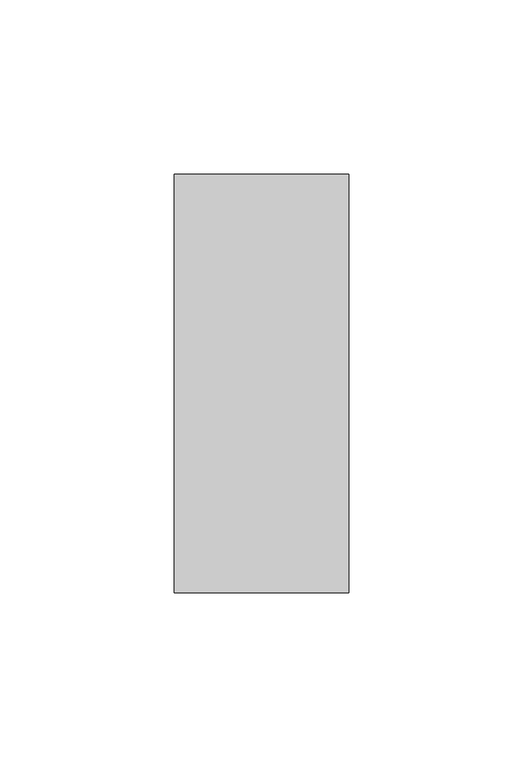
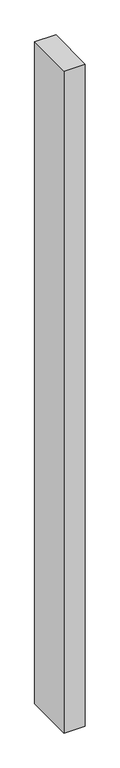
"""IFC4 building model written with IfcOpenShell, lengths in millimetres: member geometry, Прямоугольный импост : 50х120 мм."""

import ifcopenshell
import ifcopenshell.guid

model = None  # the IFC model being written
_history = None  # IfcOwnerHistory: only IFC2X3 demands one
_inside = {}  # id of a spatial element -> (the spatial element, [elements in it])
_under = {}  # id of a project, library or spatial element -> (it, [spatial elements below it])
_declared = {}  # id of a project -> (the project, [libraries it declares])
_typed = {}  # id of a type object -> (the type object, [elements of that type])
_made_of = {}  # id of a material, layer set ... -> (it, [elements and type objects made of it])


def new_model(schema):
    """Start an empty IFC model of exactly this schema.

    Asked for "IFC4X3", IfcOpenShell would pick the latest addendum, in which some entities
    have other attributes; the version numbers below select the first issue.
    IFC2X3 requires an IfcOwnerHistory on every rooted entity: one is made here for all.
    """
    global model, _history
    if schema == "IFC4X3":
        model = ifcopenshell.file(schema_version=(4, 3, 0, 0))
    else:
        model = ifcopenshell.file(schema=schema)
    _inside.clear()
    _under.clear()
    _declared.clear()
    _typed.clear()
    _made_of.clear()
    _history = None
    if model.schema == "IFC2X3":
        org = make("IfcOrganization", Name="unknown")
        user = make(
            "IfcPersonAndOrganization",
            ThePerson=make("IfcPerson", FamilyName="unknown"),
            TheOrganization=org,
        )
        app = make(
            "IfcApplication",
            ApplicationDeveloper=org,
            Version="unknown",
            ApplicationFullName="unknown",
            ApplicationIdentifier="unknown",
        )
        _history = make(
            "IfcOwnerHistory",
            OwningUser=user,
            OwningApplication=app,
            ChangeAction="ADDED",
            CreationDate=0,
        )
    return model


def make(cls, **values):
    """One entity of the class cls with the attributes given. An attribute that is None is left unset."""
    return model.create_entity(
        cls, **{name: value for name, value in values.items() if value is not None}
    )


def rooted(cls, **values):
    """An entity with a GlobalId (a new one), such as an element, a storey or a relation."""
    return make(cls, GlobalId=ifcopenshell.guid.new(), OwnerHistory=_history, **values)


def si_unit(unit_type, name, prefix=None):
    """IfcSIUnit, for example si_unit("LENGTHUNIT", "METRE", prefix="MILLI")."""
    return make("IfcSIUnit", UnitType=unit_type, Prefix=prefix, Name=name)


def assignment(units):
    """IfcUnitAssignment: the units of a project."""
    return None if units is None else make("IfcUnitAssignment", Units=units)


def point(xyz):
    """IfcCartesianPoint."""
    return None if xyz is None else make("IfcCartesianPoint", Coordinates=xyz)


def direction(xyz):
    """IfcDirection."""
    return None if xyz is None else make("IfcDirection", DirectionRatios=xyz)


def frame(location, z_axis=None, x_axis=None):
    """IfcAxis2Placement3D, a coordinate frame: its origin and axes. An axis left out is left unset."""
    return make(
        "IfcAxis2Placement3D",
        Location=point(location),
        Axis=direction(z_axis),
        RefDirection=direction(x_axis),
    )


def origin():
    """The frame at (0, 0, 0) with its axes left unset."""
    return frame((0.0, 0.0, 0.0))


def place(relative_to, where):
    """IfcLocalPlacement: puts the frame where relative to a parent placement (None: the world)."""
    return make(
        "IfcLocalPlacement", PlacementRelTo=relative_to, RelativePlacement=where
    )


def context(
    kind, dimensions, precision=None, world=None, true_north=None, identifier=None
):
    """IfcGeometricRepresentationContext, for example the 3D "Model" context."""
    return make(
        "IfcGeometricRepresentationContext",
        ContextIdentifier=identifier,
        ContextType=kind,
        CoordinateSpaceDimension=dimensions,
        Precision=precision,
        WorldCoordinateSystem=world,
        TrueNorth=true_north,
    )


def project(units=None, contexts=None):
    """IfcProject with its units and contexts."""
    return rooted(
        "IfcProject",
        Name="project",
        RepresentationContexts=contexts,
        UnitsInContext=assignment(units),
    )


def spatial(cls, under=None, at=None, **own):
    """A site, building, storey or space (cls), placed at a placement, below another one or the project."""
    s = rooted(cls, ObjectPlacement=at, **own)
    if under is not None:
        _under.setdefault(under.id(), (under, []))[1].append(s)
    return s


def polyline(points):
    """IfcPolyline through the points."""
    return make("IfcPolyline", Points=[point(p) for p in points])


def outline(outer, holes=None, kind="AREA"):
    """IfcArbitraryClosedProfileDef: a profile drawn as a closed curve; with holes, ...WithVoids."""
    if holes is None:
        return make("IfcArbitraryClosedProfileDef", ProfileType=kind, OuterCurve=outer)
    return make(
        "IfcArbitraryProfileDefWithVoids",
        ProfileType=kind,
        OuterCurve=outer,
        InnerCurves=holes,
    )


def extrude(swept, where, along, depth):
    """IfcExtrudedAreaSolid: the profile swept, set in the frame where, extruded along a direction by depth."""
    return make(
        "IfcExtrudedAreaSolid",
        SweptArea=swept,
        Position=where,
        ExtrudedDirection=direction(along),
        Depth=depth,
    )


def shape(context_of_items, identifier, shape_type, items):
    """IfcShapeRepresentation: the items that make up one representation, for example the "Body"."""
    return make(
        "IfcShapeRepresentation",
        ContextOfItems=context_of_items,
        RepresentationIdentifier=identifier,
        RepresentationType=shape_type,
        Items=items,
    )


def source(mapping_origin, context_of_items, identifier, shape_type, items):
    """IfcRepresentationMap: a shape defined once, which mapped items show again and again."""
    return make(
        "IfcRepresentationMap",
        MappingOrigin=mapping_origin,
        MappedRepresentation=shape(context_of_items, identifier, shape_type, items),
    )


def transform(
    local_origin,
    x_axis=None,
    y_axis=None,
    z_axis=None,
    scale=None,
    scale2=None,
    scale3=None,
    uniform=True,
):
    """IfcCartesianTransformationOperator3D, or its non-uniform kind. x_axis, y_axis, z_axis: its Axis1, 2, 3."""
    if uniform:
        return make(
            "IfcCartesianTransformationOperator3D",
            Axis1=direction(x_axis),
            Axis2=direction(y_axis),
            LocalOrigin=point(local_origin),
            Scale=scale,
            Axis3=direction(z_axis),
        )
    return make(
        "IfcCartesianTransformationOperator3DnonUniform",
        Axis1=direction(x_axis),
        Axis2=direction(y_axis),
        LocalOrigin=point(local_origin),
        Scale=scale,
        Axis3=direction(z_axis),
        Scale2=scale2,
        Scale3=scale3,
    )


def mapped(mapping_source, mapping_target):
    """IfcMappedItem: shows the shape of a source again, moved by a transform."""
    return make(
        "IfcMappedItem", MappingSource=mapping_source, MappingTarget=mapping_target
    )


def made_of(thing, what):
    """Note that an element or type object is made of a material, layer set ...; save() writes the relation."""
    if what is not None:
        _made_of.setdefault(what.id(), (what, []))[1].append(thing)
    return thing


def element(
    cls,
    number,
    at=None,
    inside=None,
    cuts=None,
    type_object=None,
    material=None,
    context=None,
    identifier="Body",
    shape_type=None,
    held_by="IfcProductDefinitionShape",
    body=None,
    shapes=None,
    **own,
):
    """One element of the class cls, such as IfcWall. Its Tag is "e" and its number.

    at: its placement. inside: the storey or other place that contains it. cuts: it is an
    opening in that element (IfcRelVoidsElement). A single representation is given by context,
    identifier, shape_type and body (its items); several are given by shapes. held_by: the class
    of the entity that holds the representations. save() writes the other relations.
    """
    e = rooted(cls, Tag="e%d" % number, ObjectPlacement=at, **own)
    if body is not None:
        shapes = [shape(context, identifier, shape_type, body)]
    if shapes is not None:
        e.Representation = make(held_by, Representations=shapes)
    if inside is not None:
        _inside.setdefault(inside.id(), (inside, []))[1].append(e)
    if cuts is not None:
        rooted(
            "IfcRelVoidsElement", RelatingBuildingElement=cuts, RelatedOpeningElement=e
        )
    if type_object is not None:
        _typed.setdefault(type_object.id(), (type_object, []))[1].append(e)
    return made_of(e, material)


def aggregate(whole, parts):
    """IfcRelAggregates: a whole, such as a stair, and the parts it consists of."""
    return rooted("IfcRelAggregates", RelatingObject=whole, RelatedObjects=parts)


def save(model, path):
    """Write the relations noted so far, then the file.

    IfcRelAggregates (storeys below a building ...), IfcRelContainedInSpatialStructure (elements
    in a storey), IfcRelDefinesByType, IfcRelAssociatesMaterial and IfcRelDeclares: one each for
    every whole, place, type object, material and project.
    """
    for whole, parts in _under.values():
        aggregate(whole, parts)
    for where, things in _inside.values():
        rooted(
            "IfcRelContainedInSpatialStructure",
            RelatedElements=things,
            RelatingStructure=where,
        )
    for kind, things in _typed.values():
        rooted("IfcRelDefinesByType", RelatedObjects=things, RelatingType=kind)
    for what, things in _made_of.values():
        rooted("IfcRelAssociatesMaterial", RelatedObjects=things, RelatingMaterial=what)
    for by, libraries in _declared.values():
        rooted("IfcRelDeclares", RelatingContext=by, RelatedDefinitions=libraries)
    model.write(path)


def member_032df59e(model_context):
    return source(origin(), model_context, "Body", "SweptSolid", [
        extrude(outline(polyline([(0.0, 60.0), (0.0, -60.0), (-50.0, -60.0), (-50.0, 60.0), (0.0, 60.0)])), frame((0.0, 0.0, -1655.0), z_axis=(0.0, 0.0, 1.0), x_axis=(1.0, 0.0, 0.0)), (0.0, 0.0, 1.0), 1655.0),
    ])


if __name__ == "__main__":
    model = new_model("IFC4")
    model_context = context("Model", 3, world=origin())
    ifc_project = project(units=[si_unit("LENGTHUNIT", "METRE", prefix="MILLI")], contexts=[model_context])
    site = spatial("IfcSite", under=ifc_project)
    building = spatial("IfcBuilding", under=site)
    placement = place(None, origin())
    member_shape = member_032df59e(model_context)
    element("IfcMember", 1, ObjectType="Прямоугольный импост : 50х120 мм", at=placement, inside=building, context=model_context, shape_type="MappedRepresentation", body=[
        mapped(member_shape, transform((0.0, 0.0, 0.0), x_axis=(1.0, 0.0, 0.0), y_axis=(0.0, 1.0, 0.0), z_axis=(0.0, 0.0, 1.0))),
    ])
    save(model, "model.ifc")
